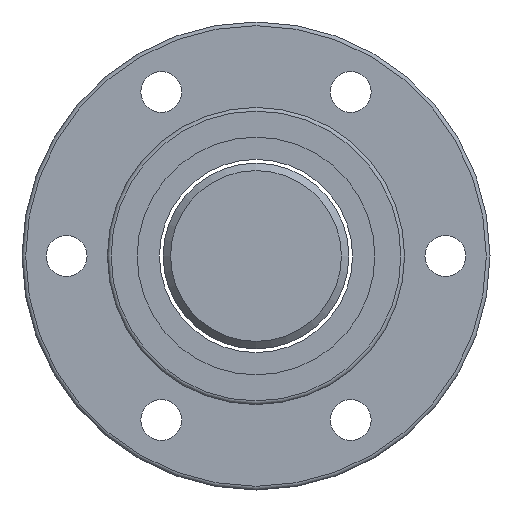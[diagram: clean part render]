
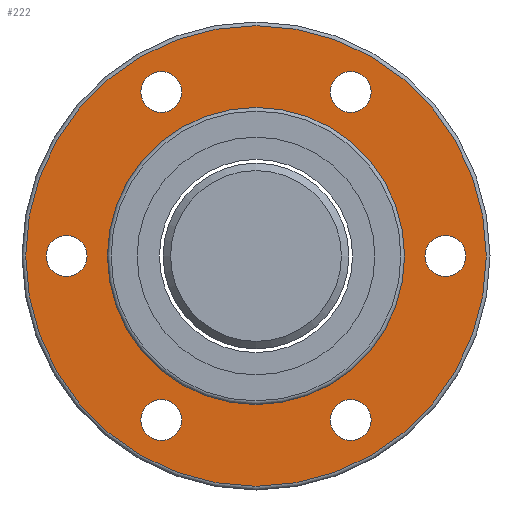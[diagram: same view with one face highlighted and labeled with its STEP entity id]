
A CAD part, left-side view. The second image highlights one B-rep face of the part: STEP entity #222.
In plain terms, the highlighted planar face has unit normal (-1, 0, 0).
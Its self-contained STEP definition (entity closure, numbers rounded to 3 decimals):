
#146=FACE_BOUND('',#313,.T.);
#147=FACE_BOUND('',#314,.T.);
#148=FACE_BOUND('',#315,.T.);
#149=FACE_BOUND('',#316,.T.);
#150=FACE_BOUND('',#317,.T.);
#151=FACE_BOUND('',#318,.T.);
#152=FACE_BOUND('',#319,.T.);
#222=ADVANCED_FACE('',(#146,#147,#148,#149,#150,#151,#152,#278),#259,.T.);
#259=PLANE('',#666);
#278=FACE_OUTER_BOUND('',#320,.T.);
#313=EDGE_LOOP('',(#411));
#314=EDGE_LOOP('',(#412));
#315=EDGE_LOOP('',(#413));
#316=EDGE_LOOP('',(#414));
#317=EDGE_LOOP('',(#415));
#318=EDGE_LOOP('',(#416));
#319=EDGE_LOOP('',(#417));
#320=EDGE_LOOP('',(#418));
#411=ORIENTED_EDGE('',*,*,#546,.F.);
#412=ORIENTED_EDGE('',*,*,#547,.F.);
#413=ORIENTED_EDGE('',*,*,#548,.F.);
#414=ORIENTED_EDGE('',*,*,#549,.F.);
#415=ORIENTED_EDGE('',*,*,#550,.F.);
#416=ORIENTED_EDGE('',*,*,#551,.F.);
#417=ORIENTED_EDGE('',*,*,#552,.T.);
#418=ORIENTED_EDGE('',*,*,#553,.F.);
#497=VERTEX_POINT('',#953);
#498=VERTEX_POINT('',#955);
#499=VERTEX_POINT('',#957);
#500=VERTEX_POINT('',#959);
#501=VERTEX_POINT('',#961);
#502=VERTEX_POINT('',#963);
#503=VERTEX_POINT('',#965);
#504=VERTEX_POINT('',#967);
#546=EDGE_CURVE('',#497,#497,#595,.T.);
#547=EDGE_CURVE('',#498,#498,#596,.T.);
#548=EDGE_CURVE('',#499,#499,#597,.T.);
#549=EDGE_CURVE('',#500,#500,#598,.T.);
#550=EDGE_CURVE('',#501,#501,#599,.T.);
#551=EDGE_CURVE('',#502,#502,#600,.T.);
#552=EDGE_CURVE('',#503,#503,#601,.T.);
#553=EDGE_CURVE('',#504,#504,#602,.T.);
#595=CIRCLE('',#658,2.75);
#596=CIRCLE('',#659,2.75);
#597=CIRCLE('',#660,2.75);
#598=CIRCLE('',#661,2.75);
#599=CIRCLE('',#662,2.75);
#600=CIRCLE('',#663,2.75);
#601=CIRCLE('',#664,20.);
#602=CIRCLE('',#665,31.);
#658=AXIS2_PLACEMENT_3D('',#952,#778,#779);
#659=AXIS2_PLACEMENT_3D('',#954,#780,#781);
#660=AXIS2_PLACEMENT_3D('',#956,#782,#783);
#661=AXIS2_PLACEMENT_3D('',#958,#784,#785);
#662=AXIS2_PLACEMENT_3D('',#960,#786,#787);
#663=AXIS2_PLACEMENT_3D('',#962,#788,#789);
#664=AXIS2_PLACEMENT_3D('',#964,#790,#791);
#665=AXIS2_PLACEMENT_3D('',#966,#792,#793);
#666=AXIS2_PLACEMENT_3D('',#968,#794,#795);
#778=DIRECTION('',(-1.,0.,0.));
#779=DIRECTION('',(0.,0.,1.));
#780=DIRECTION('',(-1.,0.,0.));
#781=DIRECTION('',(0.,0.,1.));
#782=DIRECTION('',(-1.,0.,0.));
#783=DIRECTION('',(0.,0.,1.));
#784=DIRECTION('',(-1.,0.,0.));
#785=DIRECTION('',(0.,0.,1.));
#786=DIRECTION('',(-1.,0.,0.));
#787=DIRECTION('',(0.,0.,1.));
#788=DIRECTION('',(-1.,0.,0.));
#789=DIRECTION('',(0.,0.,1.));
#790=DIRECTION('',(1.,0.,0.));
#791=DIRECTION('',(0.,0.,-1.));
#792=DIRECTION('',(1.,0.,0.));
#793=DIRECTION('',(0.,0.,-1.));
#794=DIRECTION('',(-1.,0.,0.));
#795=DIRECTION('',(0.,0.,1.));
#952=CARTESIAN_POINT('',(-26.,25.5,0.));
#953=CARTESIAN_POINT('',(-26.,25.5,2.75));
#954=CARTESIAN_POINT('',(-26.,-25.5,0.));
#955=CARTESIAN_POINT('',(-26.,-25.5,2.75));
#956=CARTESIAN_POINT('',(-26.,12.75,-22.084));
#957=CARTESIAN_POINT('',(-26.,12.75,-19.334));
#958=CARTESIAN_POINT('',(-26.,-12.75,-22.084));
#959=CARTESIAN_POINT('',(-26.,-12.75,-19.334));
#960=CARTESIAN_POINT('',(-26.,-12.75,22.084));
#961=CARTESIAN_POINT('',(-26.,-12.75,24.834));
#962=CARTESIAN_POINT('',(-26.,12.75,22.084));
#963=CARTESIAN_POINT('',(-26.,12.75,24.834));
#964=CARTESIAN_POINT('',(-26.,0.,0.));
#965=CARTESIAN_POINT('',(-26.,0.,-20.));
#966=CARTESIAN_POINT('',(-26.,0.,0.));
#967=CARTESIAN_POINT('',(-26.,0.,-31.));
#968=CARTESIAN_POINT('',(-26.,25.5,0.));
